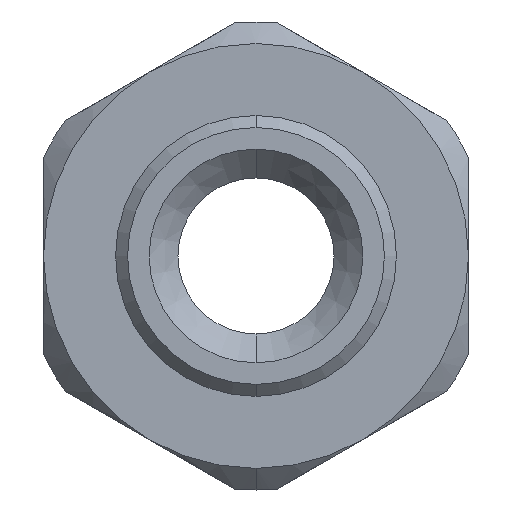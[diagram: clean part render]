
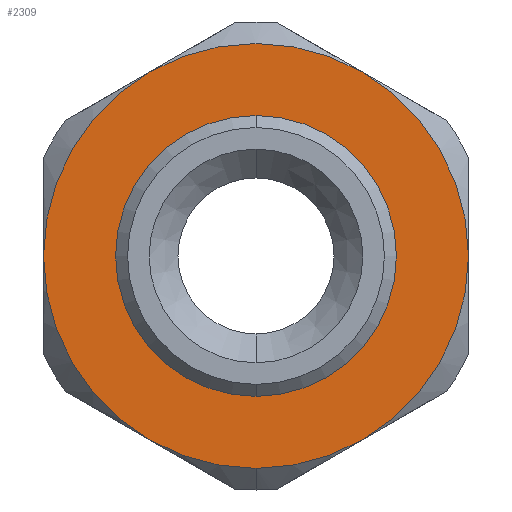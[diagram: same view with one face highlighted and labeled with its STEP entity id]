
A CAD part, front view. The second image highlights one B-rep face of the part: STEP entity #2309.
In plain terms, the highlighted planar face has unit normal (0, -1, 0).
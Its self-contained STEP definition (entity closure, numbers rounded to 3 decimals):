
#30 = EDGE_LOOP ( 'NONE', ( #1467, #1468 ) ) ;
#288 = CIRCLE ( 'NONE', #461, 8.85 ) ;
#318 = CIRCLE ( 'NONE', #636, 5.85 ) ;
#332 = CIRCLE ( 'NONE', #490, 8.85 ) ;
#333 = CIRCLE ( 'NONE', #506, 8.85 ) ;
#334 = CIRCLE ( 'NONE', #503, 8.85 ) ;
#335 = CIRCLE ( 'NONE', #564, 8.85 ) ;
#337 = CIRCLE ( 'NONE', #484, 8.85 ) ;
#338 = CIRCLE ( 'NONE', #527, 5.85 ) ;
#339 = CIRCLE ( 'NONE', #610, 8.85 ) ;
#461 = AXIS2_PLACEMENT_3D ( 'NONE', #757, #750, #749 ) ;
#484 = AXIS2_PLACEMENT_3D ( 'NONE', #1140, #1139, #1138 ) ;
#489 = FACE_OUTER_BOUND ( 'NONE', #1821, .T. ) ;
#490 = AXIS2_PLACEMENT_3D ( 'NONE', #1125, #1124, #1123 ) ;
#493 = AXIS2_PLACEMENT_3D ( 'NONE', #779, #778, #777 ) ;
#498 = FACE_BOUND ( 'NONE', #30, .T. ) ;
#503 = AXIS2_PLACEMENT_3D ( 'NONE', #1131, #1130, #1129 ) ;
#506 = AXIS2_PLACEMENT_3D ( 'NONE', #1122, #1121, #1120 ) ;
#527 = AXIS2_PLACEMENT_3D ( 'NONE', #1143, #1142, #1141 ) ;
#564 = AXIS2_PLACEMENT_3D ( 'NONE', #1134, #1133, #1132 ) ;
#610 = AXIS2_PLACEMENT_3D ( 'NONE', #1146, #1145, #1144 ) ;
#636 = AXIS2_PLACEMENT_3D ( 'NONE', #1050, #1049, #1048 ) ;
#749 = DIRECTION ( 'NONE',  ( 0., 0., -1. ) ) ;
#750 = DIRECTION ( 'NONE',  ( 0., -1., 0. ) ) ;
#757 = CARTESIAN_POINT ( 'NONE',  ( 0., 1., 0. ) ) ;
#777 = DIRECTION ( 'NONE',  ( 0., 0., 1. ) ) ;
#778 = DIRECTION ( 'NONE',  ( 0., 1., 0. ) ) ;
#779 = CARTESIAN_POINT ( 'NONE',  ( -9.75, 1., 0. ) ) ;
#780 = PLANE ( 'NONE',  #493 ) ;
#1048 = DIRECTION ( 'NONE',  ( 0., 0., -1. ) ) ;
#1049 = DIRECTION ( 'NONE',  ( 0., -1., 0. ) ) ;
#1050 = CARTESIAN_POINT ( 'NONE',  ( 0., 1., 0. ) ) ;
#1120 = DIRECTION ( 'NONE',  ( 0., 0., -1. ) ) ;
#1121 = DIRECTION ( 'NONE',  ( 0., -1., 0. ) ) ;
#1122 = CARTESIAN_POINT ( 'NONE',  ( 0., 1., 0. ) ) ;
#1123 = DIRECTION ( 'NONE',  ( 0., 0., -1. ) ) ;
#1124 = DIRECTION ( 'NONE',  ( 0., -1., 0. ) ) ;
#1125 = CARTESIAN_POINT ( 'NONE',  ( 0., 1., 0. ) ) ;
#1129 = DIRECTION ( 'NONE',  ( 0., 0., -1. ) ) ;
#1130 = DIRECTION ( 'NONE',  ( 0., -1., 0. ) ) ;
#1131 = CARTESIAN_POINT ( 'NONE',  ( 0., 1., 0. ) ) ;
#1132 = DIRECTION ( 'NONE',  ( 0., 0., -1. ) ) ;
#1133 = DIRECTION ( 'NONE',  ( 0., -1., 0. ) ) ;
#1134 = CARTESIAN_POINT ( 'NONE',  ( 0., 1., 0. ) ) ;
#1138 = DIRECTION ( 'NONE',  ( 0., 0., -1. ) ) ;
#1139 = DIRECTION ( 'NONE',  ( 0., -1., 0. ) ) ;
#1140 = CARTESIAN_POINT ( 'NONE',  ( 0., 1., 0. ) ) ;
#1141 = DIRECTION ( 'NONE',  ( 0., 0., -1. ) ) ;
#1142 = DIRECTION ( 'NONE',  ( 0., -1., 0. ) ) ;
#1143 = CARTESIAN_POINT ( 'NONE',  ( 0., 1., 0. ) ) ;
#1144 = DIRECTION ( 'NONE',  ( 0., 0., -1. ) ) ;
#1145 = DIRECTION ( 'NONE',  ( 0., -1., 0. ) ) ;
#1146 = CARTESIAN_POINT ( 'NONE',  ( 0., 1., 0. ) ) ;
#1164 = CARTESIAN_POINT ( 'NONE',  ( 8.85, 1., 0. ) ) ;
#1167 = CARTESIAN_POINT ( 'NONE',  ( -4.425, 1., -7.664 ) ) ;
#1180 = CARTESIAN_POINT ( 'NONE',  ( 0., 1., 5.85 ) ) ;
#1194 = CARTESIAN_POINT ( 'NONE',  ( 0., 1., -5.85 ) ) ;
#1206 = CARTESIAN_POINT ( 'NONE',  ( 4.425, 1., 7.664 ) ) ;
#1207 = CARTESIAN_POINT ( 'NONE',  ( -8.85, 1., 0. ) ) ;
#1208 = CARTESIAN_POINT ( 'NONE',  ( -4.425, 1., 7.664 ) ) ;
#1257 = CARTESIAN_POINT ( 'NONE',  ( 4.425, 1., -7.664 ) ) ;
#1259 = CARTESIAN_POINT ( 'NONE',  ( 0., 1., -8.85 ) ) ;
#1467 = ORIENTED_EDGE ( 'NONE', *, *, #2227, .F. ) ;
#1468 = ORIENTED_EDGE ( 'NONE', *, *, #2196, .F. ) ;
#1469 = ORIENTED_EDGE ( 'NONE', *, *, #2197, .T. ) ;
#1470 = ORIENTED_EDGE ( 'NONE', *, *, #2199, .T. ) ;
#1471 = ORIENTED_EDGE ( 'NONE', *, *, #2195, .T. ) ;
#1472 = ORIENTED_EDGE ( 'NONE', *, *, #2200, .T. ) ;
#1473 = ORIENTED_EDGE ( 'NONE', *, *, #2202, .T. ) ;
#1474 = ORIENTED_EDGE ( 'NONE', *, *, #2318, .T. ) ;
#1475 = ORIENTED_EDGE ( 'NONE', *, *, #2203, .T. ) ;
#1665 = VERTEX_POINT ( 'NONE', #1259 ) ;
#1667 = VERTEX_POINT ( 'NONE', #1257 ) ;
#1716 = VERTEX_POINT ( 'NONE', #1208 ) ;
#1717 = VERTEX_POINT ( 'NONE', #1207 ) ;
#1718 = VERTEX_POINT ( 'NONE', #1206 ) ;
#1730 = VERTEX_POINT ( 'NONE', #1194 ) ;
#1744 = VERTEX_POINT ( 'NONE', #1180 ) ;
#1757 = VERTEX_POINT ( 'NONE', #1167 ) ;
#1760 = VERTEX_POINT ( 'NONE', #1164 ) ;
#1821 = EDGE_LOOP ( 'NONE', ( #1469, #1471, #1470, #1472, #1473, #1474, #1475 ) ) ;
#2195 = EDGE_CURVE ( 'NONE', #1718, #1716, #339, .T. ) ;
#2196 = EDGE_CURVE ( 'NONE', #1744, #1730, #338, .T. ) ;
#2197 = EDGE_CURVE ( 'NONE', #1760, #1718, #337, .T. ) ;
#2199 = EDGE_CURVE ( 'NONE', #1716, #1717, #335, .T. ) ;
#2200 = EDGE_CURVE ( 'NONE', #1717, #1757, #334, .T. ) ;
#2202 = EDGE_CURVE ( 'NONE', #1757, #1665, #332, .T. ) ;
#2203 = EDGE_CURVE ( 'NONE', #1667, #1760, #333, .T. ) ;
#2227 = EDGE_CURVE ( 'NONE', #1730, #1744, #318, .T. ) ;
#2309 = ADVANCED_FACE ( 'NONE', ( #498, #489 ), #780, .F. ) ;
#2318 = EDGE_CURVE ( 'NONE', #1665, #1667, #288, .T. ) ;
